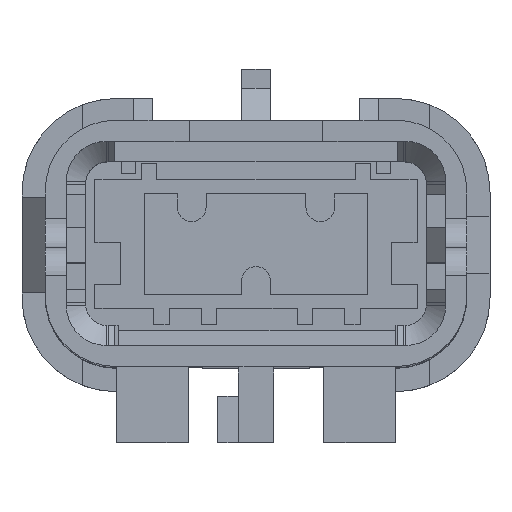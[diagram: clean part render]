
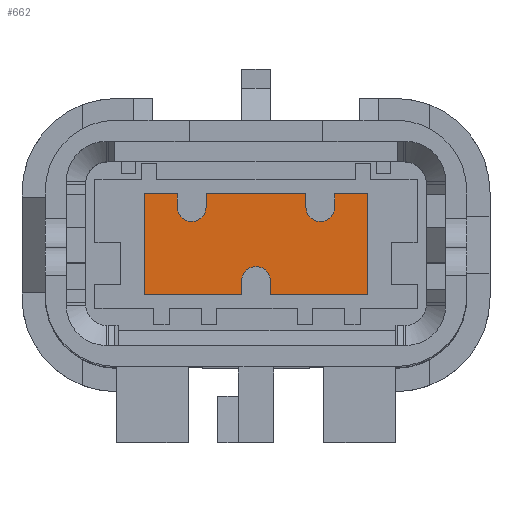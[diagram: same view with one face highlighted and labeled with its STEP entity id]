
A CAD part, top view. The second image highlights one B-rep face of the part: STEP entity #662.
In plain terms, the highlighted planar face has unit normal (0, 0, 1).
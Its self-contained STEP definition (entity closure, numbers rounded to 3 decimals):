
#348=CIRCLE('',#9953,0.75);
#349=CIRCLE('',#9954,0.75);
#350=CIRCLE('',#9955,0.75);
#662=ADVANCED_FACE('',(#1523),#1103,.T.);
#1103=PLANE('',#9956);
#1523=FACE_OUTER_BOUND('',#2013,.T.);
#2013=EDGE_LOOP('',(#3828,#3829,#3830,#3831,#3832,#3833,#3834,#3835,#3836,
#3837,#3838,#3839,#3840,#3841,#3842,#3843));
#3828=ORIENTED_EDGE('',*,*,#6852,.F.);
#3829=ORIENTED_EDGE('',*,*,#6853,.F.);
#3830=ORIENTED_EDGE('',*,*,#6854,.T.);
#3831=ORIENTED_EDGE('',*,*,#6855,.F.);
#3832=ORIENTED_EDGE('',*,*,#6856,.F.);
#3833=ORIENTED_EDGE('',*,*,#6857,.F.);
#3834=ORIENTED_EDGE('',*,*,#6858,.F.);
#3835=ORIENTED_EDGE('',*,*,#6859,.F.);
#3836=ORIENTED_EDGE('',*,*,#6860,.T.);
#3837=ORIENTED_EDGE('',*,*,#6861,.F.);
#3838=ORIENTED_EDGE('',*,*,#6862,.F.);
#3839=ORIENTED_EDGE('',*,*,#6863,.F.);
#3840=ORIENTED_EDGE('',*,*,#6864,.T.);
#3841=ORIENTED_EDGE('',*,*,#6865,.F.);
#3842=ORIENTED_EDGE('',*,*,#6866,.F.);
#3843=ORIENTED_EDGE('',*,*,#6867,.F.);
#5702=VERTEX_POINT('',#15099);
#5703=VERTEX_POINT('',#15100);
#5704=VERTEX_POINT('',#15102);
#5705=VERTEX_POINT('',#15104);
#5706=VERTEX_POINT('',#15106);
#5707=VERTEX_POINT('',#15108);
#5708=VERTEX_POINT('',#15110);
#5709=VERTEX_POINT('',#15112);
#5710=VERTEX_POINT('',#15114);
#5711=VERTEX_POINT('',#15116);
#5712=VERTEX_POINT('',#15118);
#5713=VERTEX_POINT('',#15120);
#5714=VERTEX_POINT('',#15122);
#5715=VERTEX_POINT('',#15124);
#5716=VERTEX_POINT('',#15126);
#5717=VERTEX_POINT('',#15128);
#6852=EDGE_CURVE('',#5702,#5703,#8099,.T.);
#6853=EDGE_CURVE('',#5704,#5702,#8100,.T.);
#6854=EDGE_CURVE('',#5704,#5705,#8101,.T.);
#6855=EDGE_CURVE('',#5706,#5705,#348,.T.);
#6856=EDGE_CURVE('',#5707,#5706,#8102,.T.);
#6857=EDGE_CURVE('',#5708,#5707,#8103,.T.);
#6858=EDGE_CURVE('',#5709,#5708,#8104,.T.);
#6859=EDGE_CURVE('',#5710,#5709,#8105,.T.);
#6860=EDGE_CURVE('',#5710,#5711,#8106,.T.);
#6861=EDGE_CURVE('',#5712,#5711,#349,.T.);
#6862=EDGE_CURVE('',#5713,#5712,#8107,.T.);
#6863=EDGE_CURVE('',#5714,#5713,#8108,.T.);
#6864=EDGE_CURVE('',#5714,#5715,#8109,.T.);
#6865=EDGE_CURVE('',#5716,#5715,#350,.T.);
#6866=EDGE_CURVE('',#5717,#5716,#8110,.T.);
#6867=EDGE_CURVE('',#5703,#5717,#8111,.T.);
#8099=LINE('',#15098,#9235);
#8100=LINE('',#15101,#9236);
#8101=LINE('',#15103,#9237);
#8102=LINE('',#15107,#9238);
#8103=LINE('',#15109,#9239);
#8104=LINE('',#15111,#9240);
#8105=LINE('',#15113,#9241);
#8106=LINE('',#15115,#9242);
#8107=LINE('',#15119,#9243);
#8108=LINE('',#15121,#9244);
#8109=LINE('',#15123,#9245);
#8110=LINE('',#15127,#9246);
#8111=LINE('',#15129,#9247);
#9235=VECTOR('',#11731,1.);
#9236=VECTOR('',#11732,1.);
#9237=VECTOR('',#11733,1.);
#9238=VECTOR('',#11736,1.);
#9239=VECTOR('',#11737,1.);
#9240=VECTOR('',#11738,1.);
#9241=VECTOR('',#11739,1.);
#9242=VECTOR('',#11740,1.);
#9243=VECTOR('',#11743,1.);
#9244=VECTOR('',#11744,1.);
#9245=VECTOR('',#11745,1.);
#9246=VECTOR('',#11748,1.);
#9247=VECTOR('',#11749,1.);
#9953=AXIS2_PLACEMENT_3D('',#15105,#11734,#11735);
#9954=AXIS2_PLACEMENT_3D('',#15117,#11741,#11742);
#9955=AXIS2_PLACEMENT_3D('',#15125,#11746,#11747);
#9956=AXIS2_PLACEMENT_3D('',#15130,#11750,#11751);
#11731=DIRECTION('',(0.,1.,0.));
#11732=DIRECTION('',(-1.,0.,0.));
#11733=DIRECTION('',(0.,1.,0.));
#11734=DIRECTION('',(0.,0.,1.));
#11735=DIRECTION('',(1.,0.,0.));
#11736=DIRECTION('',(0.,1.,0.));
#11737=DIRECTION('',(-1.,0.,0.));
#11738=DIRECTION('',(0.,-1.,0.));
#11739=DIRECTION('',(1.,0.,0.));
#11740=DIRECTION('',(0.,-1.,0.));
#11741=DIRECTION('',(0.,0.,1.));
#11742=DIRECTION('',(-1.,0.,0.));
#11743=DIRECTION('',(0.,-1.,0.));
#11744=DIRECTION('',(1.,0.,0.));
#11745=DIRECTION('',(0.,-1.,0.));
#11746=DIRECTION('',(0.,0.,1.));
#11747=DIRECTION('',(-1.,0.,0.));
#11748=DIRECTION('',(0.,-1.,0.));
#11749=DIRECTION('',(1.,0.,0.));
#11750=DIRECTION('',(0.,0.,1.));
#11751=DIRECTION('',(1.,0.,0.));
#15098=CARTESIAN_POINT('',(-5.845,0.5,1.1));
#15099=CARTESIAN_POINT('',(-5.845,-2.625,1.1));
#15100=CARTESIAN_POINT('',(-5.845,2.625,1.1));
#15101=CARTESIAN_POINT('',(-0.75,-2.625,1.1));
#15102=CARTESIAN_POINT('',(-0.75,-2.625,1.1));
#15103=CARTESIAN_POINT('',(-0.75,-2.625,1.1));
#15104=CARTESIAN_POINT('',(-0.75,-1.925,1.1));
#15105=CARTESIAN_POINT('',(0.,-1.925,1.1));
#15106=CARTESIAN_POINT('',(0.75,-1.925,1.1));
#15107=CARTESIAN_POINT('',(0.75,-2.625,1.1));
#15108=CARTESIAN_POINT('',(0.75,-2.625,1.1));
#15109=CARTESIAN_POINT('',(5.845,-2.625,1.1));
#15110=CARTESIAN_POINT('',(5.845,-2.625,1.1));
#15111=CARTESIAN_POINT('',(5.845,-0.5,1.1));
#15112=CARTESIAN_POINT('',(5.845,2.625,1.1));
#15113=CARTESIAN_POINT('',(4.115,2.625,1.1));
#15114=CARTESIAN_POINT('',(4.115,2.625,1.1));
#15115=CARTESIAN_POINT('',(4.115,2.625,1.1));
#15116=CARTESIAN_POINT('',(4.115,1.925,1.1));
#15117=CARTESIAN_POINT('',(3.365,1.925,1.1));
#15118=CARTESIAN_POINT('',(2.615,1.925,1.1));
#15119=CARTESIAN_POINT('',(2.615,2.625,1.1));
#15120=CARTESIAN_POINT('',(2.615,2.625,1.1));
#15121=CARTESIAN_POINT('',(-2.615,2.625,1.1));
#15122=CARTESIAN_POINT('',(-2.615,2.625,1.1));
#15123=CARTESIAN_POINT('',(-2.615,2.625,1.1));
#15124=CARTESIAN_POINT('',(-2.615,1.925,1.1));
#15125=CARTESIAN_POINT('',(-3.365,1.925,1.1));
#15126=CARTESIAN_POINT('',(-4.115,1.925,1.1));
#15127=CARTESIAN_POINT('',(-4.115,2.625,1.1));
#15128=CARTESIAN_POINT('',(-4.115,2.625,1.1));
#15129=CARTESIAN_POINT('',(-5.845,2.625,1.1));
#15130=CARTESIAN_POINT('',(-7.014,-3.15,1.1));
